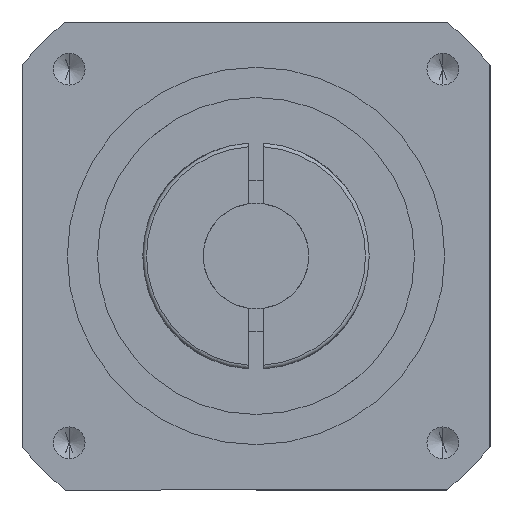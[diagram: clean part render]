
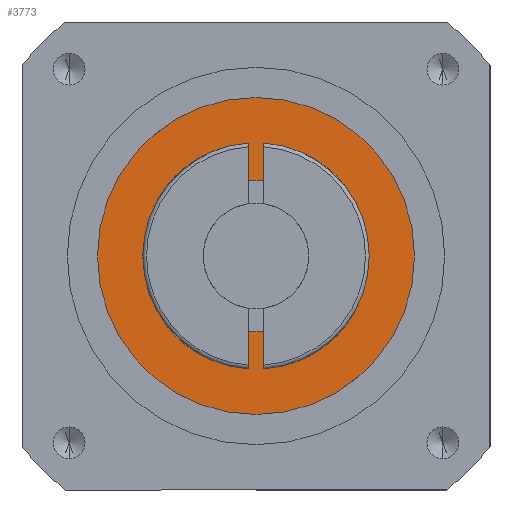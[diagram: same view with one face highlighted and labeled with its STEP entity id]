
A CAD part, front view. The second image highlights one B-rep face of the part: STEP entity #3773.
In plain terms, the highlighted planar face has unit normal (0, -1, 0).
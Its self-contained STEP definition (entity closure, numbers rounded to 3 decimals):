
#137 = ORIENTED_EDGE ( 'NONE', *, *, #3524, .T. ) ;
#138 = ORIENTED_EDGE ( 'NONE', *, *, #643, .T. ) ;
#139 = ORIENTED_EDGE ( 'NONE', *, *, #632, .T. ) ;
#140 = ORIENTED_EDGE ( 'NONE', *, *, #3525, .T. ) ;
#632 = EDGE_CURVE ( 'NONE', #5244, #5144, #2958, .T. ) ;
#643 = EDGE_CURVE ( 'NONE', #5124, #5337, #2977, .T. ) ;
#686 = DIRECTION ( 'NONE',  ( 0., 0., 1. ) ) ;
#687 = DIRECTION ( 'NONE',  ( 0., 1., 0. ) ) ;
#688 = CARTESIAN_POINT ( 'NONE',  ( 0., -50., 0. ) ) ;
#695 = DIRECTION ( 'NONE',  ( 0., 0., -1. ) ) ;
#696 = DIRECTION ( 'NONE',  ( 0., -1., 0. ) ) ;
#698 = CARTESIAN_POINT ( 'NONE',  ( 0., -50., 0. ) ) ;
#781 = DIRECTION ( 'NONE',  ( 0., 0., -1. ) ) ;
#789 = CARTESIAN_POINT ( 'NONE',  ( 0., -50., 0. ) ) ;
#817 = DIRECTION ( 'NONE',  ( 0., -1., 0. ) ) ;
#1512 = PLANE ( 'NONE',  #4362 ) ;
#1513 = CARTESIAN_POINT ( 'NONE',  ( 0., -50., 0. ) ) ;
#1518 = DIRECTION ( 'NONE',  ( 0., -1., 0. ) ) ;
#1519 = DIRECTION ( 'NONE',  ( 0., 0., -1. ) ) ;
#2068 = DIRECTION ( 'NONE',  ( 0., 0., 1. ) ) ;
#2079 = DIRECTION ( 'NONE',  ( 0., 1., 0. ) ) ;
#2083 = CARTESIAN_POINT ( 'NONE',  ( 0., -50., 0. ) ) ;
#2213 = CARTESIAN_POINT ( 'NONE',  ( 0., -50., 10. ) ) ;
#2306 = CARTESIAN_POINT ( 'NONE',  ( 0., -50., -21. ) ) ;
#2958 = CIRCLE ( 'NONE', #4245, 10. ) ;
#2977 = CIRCLE ( 'NONE', #4249, 21. ) ;
#3013 = CIRCLE ( 'NONE', #4258, 21. ) ;
#3018 = CIRCLE ( 'NONE', #4259, 10. ) ;
#3327 = FACE_OUTER_BOUND ( 'NONE', #5472, .T. ) ;
#3330 = FACE_BOUND ( 'NONE', #5522, .T. ) ;
#3524 = EDGE_CURVE ( 'NONE', #5337, #5124, #3013, .T. ) ;
#3525 = EDGE_CURVE ( 'NONE', #5144, #5244, #3018, .T. ) ;
#3773 = ADVANCED_FACE ( 'NONE', ( #3327, #3330 ), #1512, .T. ) ;
#4245 = AXIS2_PLACEMENT_3D ( 'NONE', #2083, #2079, #2068 ) ;
#4249 = AXIS2_PLACEMENT_3D ( 'NONE', #789, #817, #781 ) ;
#4258 = AXIS2_PLACEMENT_3D ( 'NONE', #698, #696, #695 ) ;
#4259 = AXIS2_PLACEMENT_3D ( 'NONE', #688, #687, #686 ) ;
#4362 = AXIS2_PLACEMENT_3D ( 'NONE', #1513, #1518, #1519 ) ;
#4959 = CARTESIAN_POINT ( 'NONE',  ( 0., -50., 21. ) ) ;
#4979 = CARTESIAN_POINT ( 'NONE',  ( 0., -50., -10. ) ) ;
#5124 = VERTEX_POINT ( 'NONE', #4959 ) ;
#5144 = VERTEX_POINT ( 'NONE', #4979 ) ;
#5244 = VERTEX_POINT ( 'NONE', #2213 ) ;
#5337 = VERTEX_POINT ( 'NONE', #2306 ) ;
#5472 = EDGE_LOOP ( 'NONE', ( #137, #138 ) ) ;
#5522 = EDGE_LOOP ( 'NONE', ( #139, #140 ) ) ;
